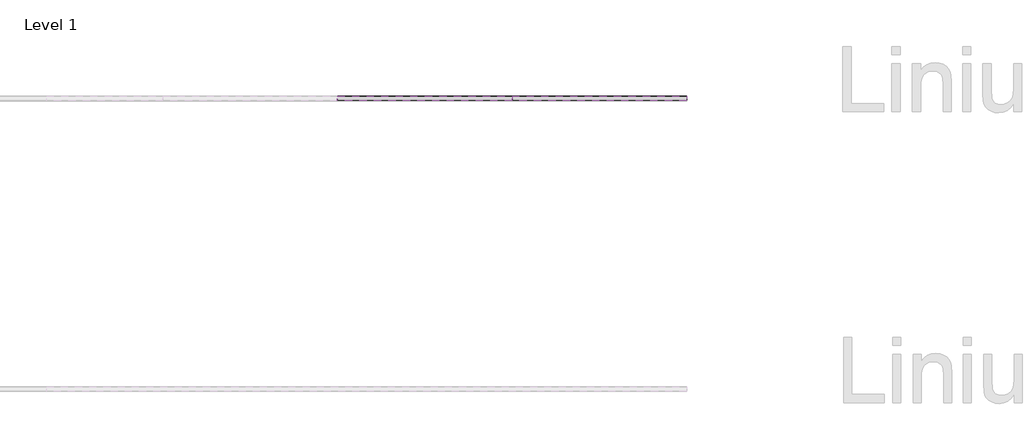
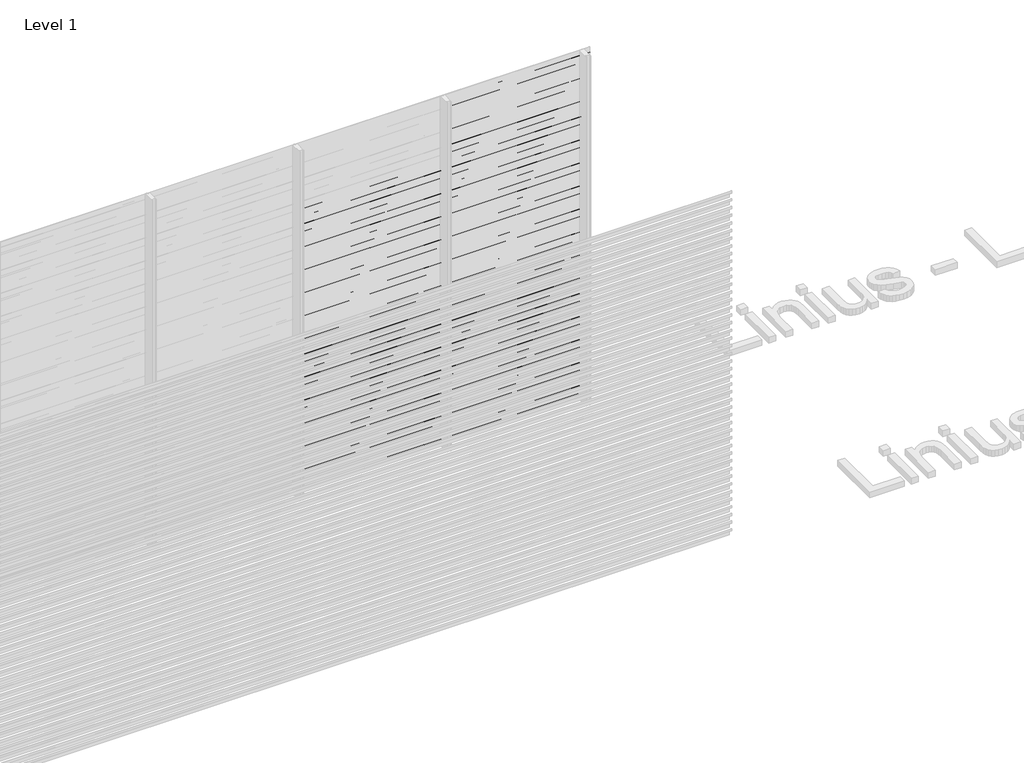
# One storey, part 110 of 540: 82 proxies.
"""IFC4 building model written with IfcOpenShell, lengths in millimetres."""

from ifc_helpers import new_model, si_unit, frame, origin, place, context, project, spatial, polyline, outline, extrude, element, save

model = new_model("IFC4")

# Units and contexts
model_context = context("Model", 3, world=origin())
ifc_project = project(units=[si_unit("LENGTHUNIT", "METRE", prefix="MILLI")], contexts=[model_context])

# Site, building, storey
site = spatial("IfcSite", under=ifc_project)
building = spatial("IfcBuilding", under=site)
storey = spatial("IfcBuildingStorey", under=building, Name="Level 1", Elevation=0.0)

# Proxies
placement = place(None, origin())
element("IfcBuildingElementProxy", 1, Name="Wall Sweeps", at=placement, inside=storey, context=model_context, shape_type="SweptSolid", body=[
    extrude(outline(polyline([(51514.0540136, 2402.0), (51514.0540136, 2369.0), (51512.8040136, 2369.7216933), (51512.8040136, 2401.2872415), (51483.0540136, 2422.0588647), (51483.0540136, 2442.0), (51484.3040136, 2442.0), (51484.3040136, 2422.7716232), (51514.0540136, 2402.0)])), frame((48566.6208097, 0.0, 0.0), z_axis=(1.0, 0.0, 0.0), x_axis=(0.0, 1.0, 0.0)), (0.0, 0.0, 1.0), 1200.0),
])
element("IfcBuildingElementProxy", 2, Name="Wall Sweeps", at=placement, inside=storey, context=model_context, shape_type="SweptSolid", body=[
    extrude(outline(polyline([(51514.0540136, 2336.0), (51514.0540136, 2303.0), (51512.8040136, 2303.7216933), (51512.8040136, 2335.2872415), (51483.0540136, 2356.0588647), (51483.0540136, 2376.0), (51484.3040136, 2376.0), (51484.3040136, 2356.7716232), (51514.0540136, 2336.0)])), frame((48566.6208097, 0.0, 0.0), z_axis=(1.0, 0.0, 0.0), x_axis=(0.0, 1.0, 0.0)), (0.0, 0.0, 1.0), 1200.0),
])
element("IfcBuildingElementProxy", 3, Name="Wall Sweeps", at=placement, inside=storey, context=model_context, shape_type="SweptSolid", body=[
    extrude(outline(polyline([(51514.0540136, 2270.0), (51514.0540136, 2237.0), (51512.8040136, 2237.7216933), (51512.8040136, 2269.2872415), (51483.0540136, 2290.0588647), (51483.0540136, 2310.0), (51484.3040136, 2310.0), (51484.3040136, 2290.7716232), (51514.0540136, 2270.0)])), frame((48566.6208097, 0.0, 0.0), z_axis=(1.0, 0.0, 0.0), x_axis=(0.0, 1.0, 0.0)), (0.0, 0.0, 1.0), 1200.0),
])
element("IfcBuildingElementProxy", 4, Name="Wall Sweeps", at=placement, inside=storey, context=model_context, shape_type="SweptSolid", body=[
    extrude(outline(polyline([(51514.0540136, 2204.0), (51514.0540136, 2171.0), (51512.8040136, 2171.7216933), (51512.8040136, 2203.2872415), (51483.0540136, 2224.0588647), (51483.0540136, 2244.0), (51484.3040136, 2244.0), (51484.3040136, 2224.7716232), (51514.0540136, 2204.0)])), frame((48566.6208097, 0.0, 0.0), z_axis=(1.0, 0.0, 0.0), x_axis=(0.0, 1.0, 0.0)), (0.0, 0.0, 1.0), 1200.0),
])
element("IfcBuildingElementProxy", 5, Name="Wall Sweeps", at=placement, inside=storey, context=model_context, shape_type="SweptSolid", body=[
    extrude(outline(polyline([(51514.0540136, 2138.0), (51514.0540136, 2105.0), (51512.8040136, 2105.7216933), (51512.8040136, 2137.2872415), (51483.0540136, 2158.0588647), (51483.0540136, 2178.0), (51484.3040136, 2178.0), (51484.3040136, 2158.7716232), (51514.0540136, 2138.0)])), frame((48566.6208097, 0.0, 0.0), z_axis=(1.0, 0.0, 0.0), x_axis=(0.0, 1.0, 0.0)), (0.0, 0.0, 1.0), 1200.0),
])
element("IfcBuildingElementProxy", 6, Name="Wall Sweeps", at=placement, inside=storey, context=model_context, shape_type="SweptSolid", body=[
    extrude(outline(polyline([(51514.0540136, 2072.0), (51514.0540136, 2039.0), (51512.8040136, 2039.7216933), (51512.8040136, 2071.2872415), (51483.0540136, 2092.0588647), (51483.0540136, 2112.0), (51484.3040136, 2112.0), (51484.3040136, 2092.7716232), (51514.0540136, 2072.0)])), frame((48566.6208097, 0.0, 0.0), z_axis=(1.0, 0.0, 0.0), x_axis=(0.0, 1.0, 0.0)), (0.0, 0.0, 1.0), 1200.0),
])
element("IfcBuildingElementProxy", 7, Name="Wall Sweeps", at=placement, inside=storey, context=model_context, shape_type="SweptSolid", body=[
    extrude(outline(polyline([(51514.0540136, 2006.0), (51514.0540136, 1973.0), (51512.8040136, 1973.7216933), (51512.8040136, 2005.2872415), (51483.0540136, 2026.0588647), (51483.0540136, 2046.0), (51484.3040136, 2046.0), (51484.3040136, 2026.7716232), (51514.0540136, 2006.0)])), frame((48566.6208097, 0.0, 0.0), z_axis=(1.0, 0.0, 0.0), x_axis=(0.0, 1.0, 0.0)), (0.0, 0.0, 1.0), 1200.0),
])
element("IfcBuildingElementProxy", 8, Name="Wall Sweeps", at=placement, inside=storey, context=model_context, shape_type="SweptSolid", body=[
    extrude(outline(polyline([(51514.0540136, 1940.0), (51514.0540136, 1907.0), (51512.8040136, 1907.7216933), (51512.8040136, 1939.2872415), (51483.0540136, 1960.0588647), (51483.0540136, 1980.0), (51484.3040136, 1980.0), (51484.3040136, 1960.7716232), (51514.0540136, 1940.0)])), frame((48566.6208097, 0.0, 0.0), z_axis=(1.0, 0.0, 0.0), x_axis=(0.0, 1.0, 0.0)), (0.0, 0.0, 1.0), 1200.0),
])
element("IfcBuildingElementProxy", 9, Name="Wall Sweeps", at=placement, inside=storey, context=model_context, shape_type="SweptSolid", body=[
    extrude(outline(polyline([(51514.0540136, 1874.0), (51514.0540136, 1841.0), (51512.8040136, 1841.7216933), (51512.8040136, 1873.2872415), (51483.0540136, 1894.0588647), (51483.0540136, 1914.0), (51484.3040136, 1914.0), (51484.3040136, 1894.7716232), (51514.0540136, 1874.0)])), frame((48566.6208097, 0.0, 0.0), z_axis=(1.0, 0.0, 0.0), x_axis=(0.0, 1.0, 0.0)), (0.0, 0.0, 1.0), 1200.0),
])
element("IfcBuildingElementProxy", 10, Name="Wall Sweeps", at=placement, inside=storey, context=model_context, shape_type="SweptSolid", body=[
    extrude(outline(polyline([(51514.0540136, 1808.0), (51514.0540136, 1775.0), (51512.8040136, 1775.7216933), (51512.8040136, 1807.2872415), (51483.0540136, 1828.0588647), (51483.0540136, 1848.0), (51484.3040136, 1848.0), (51484.3040136, 1828.7716232), (51514.0540136, 1808.0)])), frame((48566.6208097, 0.0, 0.0), z_axis=(1.0, 0.0, 0.0), x_axis=(0.0, 1.0, 0.0)), (0.0, 0.0, 1.0), 1200.0),
])
element("IfcBuildingElementProxy", 11, Name="Wall Sweeps", at=placement, inside=storey, context=model_context, shape_type="SweptSolid", body=[
    extrude(outline(polyline([(51514.0540136, 1742.0), (51514.0540136, 1709.0), (51512.8040136, 1709.7216933), (51512.8040136, 1741.2872415), (51483.0540136, 1762.0588647), (51483.0540136, 1782.0), (51484.3040136, 1782.0), (51484.3040136, 1762.7716232), (51514.0540136, 1742.0)])), frame((48566.6208097, 0.0, 0.0), z_axis=(1.0, 0.0, 0.0), x_axis=(0.0, 1.0, 0.0)), (0.0, 0.0, 1.0), 1200.0),
])
element("IfcBuildingElementProxy", 12, Name="Wall Sweeps", at=placement, inside=storey, context=model_context, shape_type="SweptSolid", body=[
    extrude(outline(polyline([(51514.0540136, 1676.0), (51514.0540136, 1643.0), (51512.8040136, 1643.7216933), (51512.8040136, 1675.2872415), (51483.0540136, 1696.0588647), (51483.0540136, 1716.0), (51484.3040136, 1716.0), (51484.3040136, 1696.7716232), (51514.0540136, 1676.0)])), frame((48566.6208097, 0.0, 0.0), z_axis=(1.0, 0.0, 0.0), x_axis=(0.0, 1.0, 0.0)), (0.0, 0.0, 1.0), 1200.0),
])
element("IfcBuildingElementProxy", 13, Name="Wall Sweeps", at=placement, inside=storey, context=model_context, shape_type="SweptSolid", body=[
    extrude(outline(polyline([(51514.0540136, 1610.0), (51514.0540136, 1577.0), (51512.8040136, 1577.7216933), (51512.8040136, 1609.2872415), (51483.0540136, 1630.0588647), (51483.0540136, 1650.0), (51484.3040136, 1650.0), (51484.3040136, 1630.7716232), (51514.0540136, 1610.0)])), frame((48566.6208097, 0.0, 0.0), z_axis=(1.0, 0.0, 0.0), x_axis=(0.0, 1.0, 0.0)), (0.0, 0.0, 1.0), 1200.0),
])
element("IfcBuildingElementProxy", 14, Name="Wall Sweeps", at=placement, inside=storey, context=model_context, shape_type="SweptSolid", body=[
    extrude(outline(polyline([(51514.0540136, 1544.0), (51514.0540136, 1511.0), (51512.8040136, 1511.7216933), (51512.8040136, 1543.2872415), (51483.0540136, 1564.0588647), (51483.0540136, 1584.0), (51484.3040136, 1584.0), (51484.3040136, 1564.7716232), (51514.0540136, 1544.0)])), frame((48566.6208097, 0.0, 0.0), z_axis=(1.0, 0.0, 0.0), x_axis=(0.0, 1.0, 0.0)), (0.0, 0.0, 1.0), 1200.0),
])
element("IfcBuildingElementProxy", 15, Name="Wall Sweeps", at=placement, inside=storey, context=model_context, shape_type="SweptSolid", body=[
    extrude(outline(polyline([(51514.0540136, 1478.0), (51514.0540136, 1445.0), (51512.8040136, 1445.7216933), (51512.8040136, 1477.2872415), (51483.0540136, 1498.0588647), (51483.0540136, 1518.0), (51484.3040136, 1518.0), (51484.3040136, 1498.7716232), (51514.0540136, 1478.0)])), frame((48566.6208097, 0.0, 0.0), z_axis=(1.0, 0.0, 0.0), x_axis=(0.0, 1.0, 0.0)), (0.0, 0.0, 1.0), 1200.0),
])
element("IfcBuildingElementProxy", 16, Name="Wall Sweeps", at=placement, inside=storey, context=model_context, shape_type="SweptSolid", body=[
    extrude(outline(polyline([(51514.0540136, 1412.0), (51514.0540136, 1379.0), (51512.8040136, 1379.7216933), (51512.8040136, 1411.2872415), (51483.0540136, 1432.0588647), (51483.0540136, 1452.0), (51484.3040136, 1452.0), (51484.3040136, 1432.7716232), (51514.0540136, 1412.0)])), frame((48566.6208097, 0.0, 0.0), z_axis=(1.0, 0.0, 0.0), x_axis=(0.0, 1.0, 0.0)), (0.0, 0.0, 1.0), 1200.0),
])
element("IfcBuildingElementProxy", 17, Name="Wall Sweeps", at=placement, inside=storey, context=model_context, shape_type="SweptSolid", body=[
    extrude(outline(polyline([(51514.0540136, 1346.0), (51514.0540136, 1313.0), (51512.8040136, 1313.7216933), (51512.8040136, 1345.2872415), (51483.0540136, 1366.0588647), (51483.0540136, 1386.0), (51484.3040136, 1386.0), (51484.3040136, 1366.7716232), (51514.0540136, 1346.0)])), frame((48566.6208097, 0.0, 0.0), z_axis=(1.0, 0.0, 0.0), x_axis=(0.0, 1.0, 0.0)), (0.0, 0.0, 1.0), 1200.0),
])
element("IfcBuildingElementProxy", 18, Name="Wall Sweeps", at=placement, inside=storey, context=model_context, shape_type="SweptSolid", body=[
    extrude(outline(polyline([(51514.0540136, 1280.0), (51514.0540136, 1247.0), (51512.8040136, 1247.7216933), (51512.8040136, 1279.2872415), (51483.0540136, 1300.0588647), (51483.0540136, 1320.0), (51484.3040136, 1320.0), (51484.3040136, 1300.7716232), (51514.0540136, 1280.0)])), frame((48566.6208097, 0.0, 0.0), z_axis=(1.0, 0.0, 0.0), x_axis=(0.0, 1.0, 0.0)), (0.0, 0.0, 1.0), 1200.0),
])
element("IfcBuildingElementProxy", 19, Name="Wall Sweeps", at=placement, inside=storey, context=model_context, shape_type="SweptSolid", body=[
    extrude(outline(polyline([(51514.0540136, 1214.0), (51514.0540136, 1181.0), (51512.8040136, 1181.7216933), (51512.8040136, 1213.2872415), (51483.0540136, 1234.0588647), (51483.0540136, 1254.0), (51484.3040136, 1254.0), (51484.3040136, 1234.7716232), (51514.0540136, 1214.0)])), frame((48566.6208097, 0.0, 0.0), z_axis=(1.0, 0.0, 0.0), x_axis=(0.0, 1.0, 0.0)), (0.0, 0.0, 1.0), 1200.0),
])
element("IfcBuildingElementProxy", 20, Name="Wall Sweeps", at=placement, inside=storey, context=model_context, shape_type="SweptSolid", body=[
    extrude(outline(polyline([(51514.0540136, 1148.0), (51514.0540136, 1115.0), (51512.8040136, 1115.7216933), (51512.8040136, 1147.2872415), (51483.0540136, 1168.0588647), (51483.0540136, 1188.0), (51484.3040136, 1188.0), (51484.3040136, 1168.7716232), (51514.0540136, 1148.0)])), frame((48566.6208097, 0.0, 0.0), z_axis=(1.0, 0.0, 0.0), x_axis=(0.0, 1.0, 0.0)), (0.0, 0.0, 1.0), 1200.0),
])
element("IfcBuildingElementProxy", 21, Name="Wall Sweeps", at=placement, inside=storey, context=model_context, shape_type="SweptSolid", body=[
    extrude(outline(polyline([(51514.0540136, 1082.0), (51514.0540136, 1049.0), (51512.8040136, 1049.7216933), (51512.8040136, 1081.2872415), (51483.0540136, 1102.0588647), (51483.0540136, 1122.0), (51484.3040136, 1122.0), (51484.3040136, 1102.7716232), (51514.0540136, 1082.0)])), frame((48566.6208097, 0.0, 0.0), z_axis=(1.0, 0.0, 0.0), x_axis=(0.0, 1.0, 0.0)), (0.0, 0.0, 1.0), 1200.0),
])
element("IfcBuildingElementProxy", 22, Name="Wall Sweeps", at=placement, inside=storey, context=model_context, shape_type="SweptSolid", body=[
    extrude(outline(polyline([(51514.0540136, 1016.0), (51514.0540136, 983.0), (51512.8040136, 983.7216933), (51512.8040136, 1015.2872415), (51483.0540136, 1036.0588647), (51483.0540136, 1056.0), (51484.3040136, 1056.0), (51484.3040136, 1036.7716232), (51514.0540136, 1016.0)])), frame((48566.6208097, 0.0, 0.0), z_axis=(1.0, 0.0, 0.0), x_axis=(0.0, 1.0, 0.0)), (0.0, 0.0, 1.0), 1200.0),
])
element("IfcBuildingElementProxy", 23, Name="Wall Sweeps", at=placement, inside=storey, context=model_context, shape_type="SweptSolid", body=[
    extrude(outline(polyline([(51514.0540136, 950.0), (51514.0540136, 917.0), (51512.8040136, 917.7216933), (51512.8040136, 949.2872415), (51483.0540136, 970.0588647), (51483.0540136, 990.0), (51484.3040136, 990.0), (51484.3040136, 970.7716232), (51514.0540136, 950.0)])), frame((48566.6208097, 0.0, 0.0), z_axis=(1.0, 0.0, 0.0), x_axis=(0.0, 1.0, 0.0)), (0.0, 0.0, 1.0), 1200.0),
])
element("IfcBuildingElementProxy", 24, Name="Wall Sweeps", at=placement, inside=storey, context=model_context, shape_type="SweptSolid", body=[
    extrude(outline(polyline([(51514.0540136, 884.0), (51514.0540136, 851.0), (51512.8040136, 851.7216933), (51512.8040136, 883.2872415), (51483.0540136, 904.0588647), (51483.0540136, 924.0), (51484.3040136, 924.0), (51484.3040136, 904.7716232), (51514.0540136, 884.0)])), frame((48566.6208097, 0.0, 0.0), z_axis=(1.0, 0.0, 0.0), x_axis=(0.0, 1.0, 0.0)), (0.0, 0.0, 1.0), 1200.0),
])
element("IfcBuildingElementProxy", 25, Name="Wall Sweeps", at=placement, inside=storey, context=model_context, shape_type="SweptSolid", body=[
    extrude(outline(polyline([(51514.0540136, 818.0), (51514.0540136, 785.0), (51512.8040136, 785.7216933), (51512.8040136, 817.2872415), (51483.0540136, 838.0588647), (51483.0540136, 858.0), (51484.3040136, 858.0), (51484.3040136, 838.7716232), (51514.0540136, 818.0)])), frame((48566.6208097, 0.0, 0.0), z_axis=(1.0, 0.0, 0.0), x_axis=(0.0, 1.0, 0.0)), (0.0, 0.0, 1.0), 1200.0),
])
element("IfcBuildingElementProxy", 26, Name="Wall Sweeps", at=placement, inside=storey, context=model_context, shape_type="SweptSolid", body=[
    extrude(outline(polyline([(51514.0540136, 752.0), (51514.0540136, 719.0), (51512.8040136, 719.7216933), (51512.8040136, 751.2872415), (51483.0540136, 772.0588647), (51483.0540136, 792.0), (51484.3040136, 792.0), (51484.3040136, 772.7716232), (51514.0540136, 752.0)])), frame((48566.6208097, 0.0, 0.0), z_axis=(1.0, 0.0, 0.0), x_axis=(0.0, 1.0, 0.0)), (0.0, 0.0, 1.0), 1200.0),
])
element("IfcBuildingElementProxy", 27, Name="Wall Sweeps", at=placement, inside=storey, context=model_context, shape_type="SweptSolid", body=[
    extrude(outline(polyline([(51514.0540136, 686.0), (51514.0540136, 653.0), (51512.8040136, 653.7216933), (51512.8040136, 685.2872415), (51483.0540136, 706.0588647), (51483.0540136, 726.0), (51484.3040136, 726.0), (51484.3040136, 706.7716232), (51514.0540136, 686.0)])), frame((48566.6208097, 0.0, 0.0), z_axis=(1.0, 0.0, 0.0), x_axis=(0.0, 1.0, 0.0)), (0.0, 0.0, 1.0), 1200.0),
])
element("IfcBuildingElementProxy", 28, Name="Wall Sweeps", at=placement, inside=storey, context=model_context, shape_type="SweptSolid", body=[
    extrude(outline(polyline([(51514.0540136, 620.0), (51514.0540136, 587.0), (51512.8040136, 587.7216933), (51512.8040136, 619.2872415), (51483.0540136, 640.0588647), (51483.0540136, 660.0), (51484.3040136, 660.0), (51484.3040136, 640.7716232), (51514.0540136, 620.0)])), frame((48566.6208097, 0.0, 0.0), z_axis=(1.0, 0.0, 0.0), x_axis=(0.0, 1.0, 0.0)), (0.0, 0.0, 1.0), 1200.0),
])
element("IfcBuildingElementProxy", 29, Name="Wall Sweeps", at=placement, inside=storey, context=model_context, shape_type="SweptSolid", body=[
    extrude(outline(polyline([(51514.0540136, 554.0), (51514.0540136, 521.0), (51512.8040136, 521.7216933), (51512.8040136, 553.2872415), (51483.0540136, 574.0588647), (51483.0540136, 594.0), (51484.3040136, 594.0), (51484.3040136, 574.7716232), (51514.0540136, 554.0)])), frame((48566.6208097, 0.0, 0.0), z_axis=(1.0, 0.0, 0.0), x_axis=(0.0, 1.0, 0.0)), (0.0, 0.0, 1.0), 1200.0),
])
element("IfcBuildingElementProxy", 30, Name="Wall Sweeps", at=placement, inside=storey, context=model_context, shape_type="SweptSolid", body=[
    extrude(outline(polyline([(51514.0540136, 488.0), (51514.0540136, 455.0), (51512.8040136, 455.7216933), (51512.8040136, 487.2872415), (51483.0540136, 508.0588647), (51483.0540136, 528.0), (51484.3040136, 528.0), (51484.3040136, 508.7716232), (51514.0540136, 488.0)])), frame((48566.6208097, 0.0, 0.0), z_axis=(1.0, 0.0, 0.0), x_axis=(0.0, 1.0, 0.0)), (0.0, 0.0, 1.0), 1200.0),
])
element("IfcBuildingElementProxy", 31, Name="Wall Sweeps", at=placement, inside=storey, context=model_context, shape_type="SweptSolid", body=[
    extrude(outline(polyline([(51514.0540136, 422.0), (51514.0540136, 389.0), (51512.8040136, 389.7216933), (51512.8040136, 421.2872415), (51483.0540136, 442.0588647), (51483.0540136, 462.0), (51484.3040136, 462.0), (51484.3040136, 442.7716232), (51514.0540136, 422.0)])), frame((48566.6208097, 0.0, 0.0), z_axis=(1.0, 0.0, 0.0), x_axis=(0.0, 1.0, 0.0)), (0.0, 0.0, 1.0), 1200.0),
])
element("IfcBuildingElementProxy", 32, Name="Wall Sweeps", at=placement, inside=storey, context=model_context, shape_type="SweptSolid", body=[
    extrude(outline(polyline([(51514.0540136, 356.0), (51514.0540136, 323.0), (51512.8040136, 323.7216933), (51512.8040136, 355.2872415), (51483.0540136, 376.0588647), (51483.0540136, 396.0), (51484.3040136, 396.0), (51484.3040136, 376.7716232), (51514.0540136, 356.0)])), frame((48566.6208097, 0.0, 0.0), z_axis=(1.0, 0.0, 0.0), x_axis=(0.0, 1.0, 0.0)), (0.0, 0.0, 1.0), 1200.0),
])
element("IfcBuildingElementProxy", 33, Name="Wall Sweeps", at=placement, inside=storey, context=model_context, shape_type="SweptSolid", body=[
    extrude(outline(polyline([(51514.0540136, 290.0), (51514.0540136, 257.0), (51512.8040136, 257.7216933), (51512.8040136, 289.2872415), (51483.0540136, 310.0588647), (51483.0540136, 330.0), (51484.3040136, 330.0), (51484.3040136, 310.7716232), (51514.0540136, 290.0)])), frame((48566.6208097, 0.0, 0.0), z_axis=(1.0, 0.0, 0.0), x_axis=(0.0, 1.0, 0.0)), (0.0, 0.0, 1.0), 1200.0),
])
element("IfcBuildingElementProxy", 34, Name="Wall Sweeps", at=placement, inside=storey, context=model_context, shape_type="SweptSolid", body=[
    extrude(outline(polyline([(51514.0540136, 224.0), (51514.0540136, 191.0), (51512.8040136, 191.7216933), (51512.8040136, 223.2872415), (51483.0540136, 244.0588647), (51483.0540136, 264.0), (51484.3040136, 264.0), (51484.3040136, 244.7716232), (51514.0540136, 224.0)])), frame((48566.6208097, 0.0, 0.0), z_axis=(1.0, 0.0, 0.0), x_axis=(0.0, 1.0, 0.0)), (0.0, 0.0, 1.0), 1200.0),
])
element("IfcBuildingElementProxy", 35, Name="Wall Sweeps", at=placement, inside=storey, context=model_context, shape_type="SweptSolid", body=[
    extrude(outline(polyline([(51514.0540136, 158.0), (51514.0540136, 125.0), (51512.8040136, 125.7216933), (51512.8040136, 157.2872415), (51483.0540136, 178.0588647), (51483.0540136, 198.0), (51484.3040136, 198.0), (51484.3040136, 178.7716232), (51514.0540136, 158.0)])), frame((48566.6208097, 0.0, 0.0), z_axis=(1.0, 0.0, 0.0), x_axis=(0.0, 1.0, 0.0)), (0.0, 0.0, 1.0), 1200.0),
])
element("IfcBuildingElementProxy", 36, Name="Wall Sweeps", at=placement, inside=storey, context=model_context, shape_type="SweptSolid", body=[
    extrude(outline(polyline([(51514.0540136, 92.0), (51514.0540136, 59.0), (51512.8040136, 59.7216933), (51512.8040136, 91.2872415), (51483.0540136, 112.0588647), (51483.0540136, 132.0), (51484.3040136, 132.0), (51484.3040136, 112.7716232), (51514.0540136, 92.0)])), frame((48566.6208097, 0.0, 0.0), z_axis=(1.0, 0.0, 0.0), x_axis=(0.0, 1.0, 0.0)), (0.0, 0.0, 1.0), 1200.0),
])
element("IfcBuildingElementProxy", 37, Name="Wall Sweeps", at=placement, inside=storey, context=model_context, shape_type="SweptSolid", body=[
    extrude(outline(polyline([(51514.0540136, 26.0), (51514.0540136, -7.0), (51512.8040136, -6.2783067), (51512.8040136, 25.2872415), (51483.0540136, 46.0588647), (51483.0540136, 66.0), (51484.3040136, 66.0), (51484.3040136, 46.7716232), (51514.0540136, 26.0)])), frame((48566.6208097, 0.0, 0.0), z_axis=(1.0, 0.0, 0.0), x_axis=(0.0, 1.0, 0.0)), (0.0, 0.0, 1.0), 1200.0),
])
element("IfcBuildingElementProxy", 38, Name="Wall Sweeps", at=placement, inside=storey, context=model_context, shape_type="SweptSolid", body=[
    extrude(outline(polyline([(51514.0540136, 2930.0), (51514.0540136, 2897.0), (51512.8040136, 2897.7216933), (51512.8040136, 2929.2872415), (51483.0540136, 2950.0588647), (51483.0540136, 2970.0), (51484.3040136, 2970.0), (51484.3040136, 2950.7716232), (51514.0540136, 2930.0)])), frame((49766.6208097, 0.0, 0.0), z_axis=(1.0, 0.0, 0.0), x_axis=(0.0, 1.0, 0.0)), (0.0, 0.0, 1.0), 1200.0),
])
element("IfcBuildingElementProxy", 39, Name="Wall Sweeps", at=placement, inside=storey, context=model_context, shape_type="SweptSolid", body=[
    extrude(outline(polyline([(51514.0540136, 2864.0), (51514.0540136, 2831.0), (51512.8040136, 2831.7216933), (51512.8040136, 2863.2872415), (51483.0540136, 2884.0588647), (51483.0540136, 2904.0), (51484.3040136, 2904.0), (51484.3040136, 2884.7716232), (51514.0540136, 2864.0)])), frame((49766.6208097, 0.0, 0.0), z_axis=(1.0, 0.0, 0.0), x_axis=(0.0, 1.0, 0.0)), (0.0, 0.0, 1.0), 1200.0),
])
element("IfcBuildingElementProxy", 40, Name="Wall Sweeps", at=placement, inside=storey, context=model_context, shape_type="SweptSolid", body=[
    extrude(outline(polyline([(51514.0540136, 2798.0), (51514.0540136, 2765.0), (51512.8040136, 2765.7216933), (51512.8040136, 2797.2872415), (51483.0540136, 2818.0588647), (51483.0540136, 2838.0), (51484.3040136, 2838.0), (51484.3040136, 2818.7716232), (51514.0540136, 2798.0)])), frame((49766.6208097, 0.0, 0.0), z_axis=(1.0, 0.0, 0.0), x_axis=(0.0, 1.0, 0.0)), (0.0, 0.0, 1.0), 1200.0),
])
element("IfcBuildingElementProxy", 41, Name="Wall Sweeps", at=placement, inside=storey, context=model_context, shape_type="SweptSolid", body=[
    extrude(outline(polyline([(51514.0540136, 2732.0), (51514.0540136, 2699.0), (51512.8040136, 2699.7216933), (51512.8040136, 2731.2872415), (51483.0540136, 2752.0588647), (51483.0540136, 2772.0), (51484.3040136, 2772.0), (51484.3040136, 2752.7716232), (51514.0540136, 2732.0)])), frame((49766.6208097, 0.0, 0.0), z_axis=(1.0, 0.0, 0.0), x_axis=(0.0, 1.0, 0.0)), (0.0, 0.0, 1.0), 1200.0),
])
element("IfcBuildingElementProxy", 42, Name="Wall Sweeps", at=placement, inside=storey, context=model_context, shape_type="SweptSolid", body=[
    extrude(outline(polyline([(51514.0540136, 2666.0), (51514.0540136, 2633.0), (51512.8040136, 2633.7216933), (51512.8040136, 2665.2872415), (51483.0540136, 2686.0588647), (51483.0540136, 2706.0), (51484.3040136, 2706.0), (51484.3040136, 2686.7716232), (51514.0540136, 2666.0)])), frame((49766.6208097, 0.0, 0.0), z_axis=(1.0, 0.0, 0.0), x_axis=(0.0, 1.0, 0.0)), (0.0, 0.0, 1.0), 1200.0),
])
element("IfcBuildingElementProxy", 43, Name="Wall Sweeps", at=placement, inside=storey, context=model_context, shape_type="SweptSolid", body=[
    extrude(outline(polyline([(51514.0540136, 2600.0), (51514.0540136, 2567.0), (51512.8040136, 2567.7216933), (51512.8040136, 2599.2872415), (51483.0540136, 2620.0588647), (51483.0540136, 2640.0), (51484.3040136, 2640.0), (51484.3040136, 2620.7716232), (51514.0540136, 2600.0)])), frame((49766.6208097, 0.0, 0.0), z_axis=(1.0, 0.0, 0.0), x_axis=(0.0, 1.0, 0.0)), (0.0, 0.0, 1.0), 1200.0),
])
element("IfcBuildingElementProxy", 44, Name="Wall Sweeps", at=placement, inside=storey, context=model_context, shape_type="SweptSolid", body=[
    extrude(outline(polyline([(51514.0540136, 2534.0), (51514.0540136, 2501.0), (51512.8040136, 2501.7216933), (51512.8040136, 2533.2872415), (51483.0540136, 2554.0588647), (51483.0540136, 2574.0), (51484.3040136, 2574.0), (51484.3040136, 2554.7716232), (51514.0540136, 2534.0)])), frame((49766.6208097, 0.0, 0.0), z_axis=(1.0, 0.0, 0.0), x_axis=(0.0, 1.0, 0.0)), (0.0, 0.0, 1.0), 1200.0),
])
element("IfcBuildingElementProxy", 45, Name="Wall Sweeps", at=placement, inside=storey, context=model_context, shape_type="SweptSolid", body=[
    extrude(outline(polyline([(51514.0540136, 2468.0), (51514.0540136, 2435.0), (51512.8040136, 2435.7216933), (51512.8040136, 2467.2872415), (51483.0540136, 2488.0588647), (51483.0540136, 2508.0), (51484.3040136, 2508.0), (51484.3040136, 2488.7716232), (51514.0540136, 2468.0)])), frame((49766.6208097, 0.0, 0.0), z_axis=(1.0, 0.0, 0.0), x_axis=(0.0, 1.0, 0.0)), (0.0, 0.0, 1.0), 1200.0),
])
element("IfcBuildingElementProxy", 46, Name="Wall Sweeps", at=placement, inside=storey, context=model_context, shape_type="SweptSolid", body=[
    extrude(outline(polyline([(51514.0540136, 2402.0), (51514.0540136, 2369.0), (51512.8040136, 2369.7216933), (51512.8040136, 2401.2872415), (51483.0540136, 2422.0588647), (51483.0540136, 2442.0), (51484.3040136, 2442.0), (51484.3040136, 2422.7716232), (51514.0540136, 2402.0)])), frame((49766.6208097, 0.0, 0.0), z_axis=(1.0, 0.0, 0.0), x_axis=(0.0, 1.0, 0.0)), (0.0, 0.0, 1.0), 1200.0),
])
element("IfcBuildingElementProxy", 47, Name="Wall Sweeps", at=placement, inside=storey, context=model_context, shape_type="SweptSolid", body=[
    extrude(outline(polyline([(51514.0540136, 2336.0), (51514.0540136, 2303.0), (51512.8040136, 2303.7216933), (51512.8040136, 2335.2872415), (51483.0540136, 2356.0588647), (51483.0540136, 2376.0), (51484.3040136, 2376.0), (51484.3040136, 2356.7716232), (51514.0540136, 2336.0)])), frame((49766.6208097, 0.0, 0.0), z_axis=(1.0, 0.0, 0.0), x_axis=(0.0, 1.0, 0.0)), (0.0, 0.0, 1.0), 1200.0),
])
element("IfcBuildingElementProxy", 48, Name="Wall Sweeps", at=placement, inside=storey, context=model_context, shape_type="SweptSolid", body=[
    extrude(outline(polyline([(51514.0540136, 2270.0), (51514.0540136, 2237.0), (51512.8040136, 2237.7216933), (51512.8040136, 2269.2872415), (51483.0540136, 2290.0588647), (51483.0540136, 2310.0), (51484.3040136, 2310.0), (51484.3040136, 2290.7716232), (51514.0540136, 2270.0)])), frame((49766.6208097, 0.0, 0.0), z_axis=(1.0, 0.0, 0.0), x_axis=(0.0, 1.0, 0.0)), (0.0, 0.0, 1.0), 1200.0),
])
element("IfcBuildingElementProxy", 49, Name="Wall Sweeps", at=placement, inside=storey, context=model_context, shape_type="SweptSolid", body=[
    extrude(outline(polyline([(51514.0540136, 2204.0), (51514.0540136, 2171.0), (51512.8040136, 2171.7216933), (51512.8040136, 2203.2872415), (51483.0540136, 2224.0588647), (51483.0540136, 2244.0), (51484.3040136, 2244.0), (51484.3040136, 2224.7716232), (51514.0540136, 2204.0)])), frame((49766.6208097, 0.0, 0.0), z_axis=(1.0, 0.0, 0.0), x_axis=(0.0, 1.0, 0.0)), (0.0, 0.0, 1.0), 1200.0),
])
element("IfcBuildingElementProxy", 50, Name="Wall Sweeps", at=placement, inside=storey, context=model_context, shape_type="SweptSolid", body=[
    extrude(outline(polyline([(51514.0540136, 2138.0), (51514.0540136, 2105.0), (51512.8040136, 2105.7216933), (51512.8040136, 2137.2872415), (51483.0540136, 2158.0588647), (51483.0540136, 2178.0), (51484.3040136, 2178.0), (51484.3040136, 2158.7716232), (51514.0540136, 2138.0)])), frame((49766.6208097, 0.0, 0.0), z_axis=(1.0, 0.0, 0.0), x_axis=(0.0, 1.0, 0.0)), (0.0, 0.0, 1.0), 1200.0),
])
element("IfcBuildingElementProxy", 51, Name="Wall Sweeps", at=placement, inside=storey, context=model_context, shape_type="SweptSolid", body=[
    extrude(outline(polyline([(51514.0540136, 2072.0), (51514.0540136, 2039.0), (51512.8040136, 2039.7216933), (51512.8040136, 2071.2872415), (51483.0540136, 2092.0588647), (51483.0540136, 2112.0), (51484.3040136, 2112.0), (51484.3040136, 2092.7716232), (51514.0540136, 2072.0)])), frame((49766.6208097, 0.0, 0.0), z_axis=(1.0, 0.0, 0.0), x_axis=(0.0, 1.0, 0.0)), (0.0, 0.0, 1.0), 1200.0),
])
element("IfcBuildingElementProxy", 52, Name="Wall Sweeps", at=placement, inside=storey, context=model_context, shape_type="SweptSolid", body=[
    extrude(outline(polyline([(51514.0540136, 2006.0), (51514.0540136, 1973.0), (51512.8040136, 1973.7216933), (51512.8040136, 2005.2872415), (51483.0540136, 2026.0588647), (51483.0540136, 2046.0), (51484.3040136, 2046.0), (51484.3040136, 2026.7716232), (51514.0540136, 2006.0)])), frame((49766.6208097, 0.0, 0.0), z_axis=(1.0, 0.0, 0.0), x_axis=(0.0, 1.0, 0.0)), (0.0, 0.0, 1.0), 1200.0),
])
element("IfcBuildingElementProxy", 53, Name="Wall Sweeps", at=placement, inside=storey, context=model_context, shape_type="SweptSolid", body=[
    extrude(outline(polyline([(51514.0540136, 1940.0), (51514.0540136, 1907.0), (51512.8040136, 1907.7216933), (51512.8040136, 1939.2872415), (51483.0540136, 1960.0588647), (51483.0540136, 1980.0), (51484.3040136, 1980.0), (51484.3040136, 1960.7716232), (51514.0540136, 1940.0)])), frame((49766.6208097, 0.0, 0.0), z_axis=(1.0, 0.0, 0.0), x_axis=(0.0, 1.0, 0.0)), (0.0, 0.0, 1.0), 1200.0),
])
element("IfcBuildingElementProxy", 54, Name="Wall Sweeps", at=placement, inside=storey, context=model_context, shape_type="SweptSolid", body=[
    extrude(outline(polyline([(51514.0540136, 1874.0), (51514.0540136, 1841.0), (51512.8040136, 1841.7216933), (51512.8040136, 1873.2872415), (51483.0540136, 1894.0588647), (51483.0540136, 1914.0), (51484.3040136, 1914.0), (51484.3040136, 1894.7716232), (51514.0540136, 1874.0)])), frame((49766.6208097, 0.0, 0.0), z_axis=(1.0, 0.0, 0.0), x_axis=(0.0, 1.0, 0.0)), (0.0, 0.0, 1.0), 1200.0),
])
element("IfcBuildingElementProxy", 55, Name="Wall Sweeps", at=placement, inside=storey, context=model_context, shape_type="SweptSolid", body=[
    extrude(outline(polyline([(51514.0540136, 1808.0), (51514.0540136, 1775.0), (51512.8040136, 1775.7216933), (51512.8040136, 1807.2872415), (51483.0540136, 1828.0588647), (51483.0540136, 1848.0), (51484.3040136, 1848.0), (51484.3040136, 1828.7716232), (51514.0540136, 1808.0)])), frame((49766.6208097, 0.0, 0.0), z_axis=(1.0, 0.0, 0.0), x_axis=(0.0, 1.0, 0.0)), (0.0, 0.0, 1.0), 1200.0),
])
element("IfcBuildingElementProxy", 56, Name="Wall Sweeps", at=placement, inside=storey, context=model_context, shape_type="SweptSolid", body=[
    extrude(outline(polyline([(51514.0540136, 1742.0), (51514.0540136, 1709.0), (51512.8040136, 1709.7216933), (51512.8040136, 1741.2872415), (51483.0540136, 1762.0588647), (51483.0540136, 1782.0), (51484.3040136, 1782.0), (51484.3040136, 1762.7716232), (51514.0540136, 1742.0)])), frame((49766.6208097, 0.0, 0.0), z_axis=(1.0, 0.0, 0.0), x_axis=(0.0, 1.0, 0.0)), (0.0, 0.0, 1.0), 1200.0),
])
element("IfcBuildingElementProxy", 57, Name="Wall Sweeps", at=placement, inside=storey, context=model_context, shape_type="SweptSolid", body=[
    extrude(outline(polyline([(51514.0540136, 1676.0), (51514.0540136, 1643.0), (51512.8040136, 1643.7216933), (51512.8040136, 1675.2872415), (51483.0540136, 1696.0588647), (51483.0540136, 1716.0), (51484.3040136, 1716.0), (51484.3040136, 1696.7716232), (51514.0540136, 1676.0)])), frame((49766.6208097, 0.0, 0.0), z_axis=(1.0, 0.0, 0.0), x_axis=(0.0, 1.0, 0.0)), (0.0, 0.0, 1.0), 1200.0),
])
element("IfcBuildingElementProxy", 58, Name="Wall Sweeps", at=placement, inside=storey, context=model_context, shape_type="SweptSolid", body=[
    extrude(outline(polyline([(51514.0540136, 1610.0), (51514.0540136, 1577.0), (51512.8040136, 1577.7216933), (51512.8040136, 1609.2872415), (51483.0540136, 1630.0588647), (51483.0540136, 1650.0), (51484.3040136, 1650.0), (51484.3040136, 1630.7716232), (51514.0540136, 1610.0)])), frame((49766.6208097, 0.0, 0.0), z_axis=(1.0, 0.0, 0.0), x_axis=(0.0, 1.0, 0.0)), (0.0, 0.0, 1.0), 1200.0),
])
element("IfcBuildingElementProxy", 59, Name="Wall Sweeps", at=placement, inside=storey, context=model_context, shape_type="SweptSolid", body=[
    extrude(outline(polyline([(51514.0540136, 1544.0), (51514.0540136, 1511.0), (51512.8040136, 1511.7216933), (51512.8040136, 1543.2872415), (51483.0540136, 1564.0588647), (51483.0540136, 1584.0), (51484.3040136, 1584.0), (51484.3040136, 1564.7716232), (51514.0540136, 1544.0)])), frame((49766.6208097, 0.0, 0.0), z_axis=(1.0, 0.0, 0.0), x_axis=(0.0, 1.0, 0.0)), (0.0, 0.0, 1.0), 1200.0),
])
element("IfcBuildingElementProxy", 60, Name="Wall Sweeps", at=placement, inside=storey, context=model_context, shape_type="SweptSolid", body=[
    extrude(outline(polyline([(51514.0540136, 1478.0), (51514.0540136, 1445.0), (51512.8040136, 1445.7216933), (51512.8040136, 1477.2872415), (51483.0540136, 1498.0588647), (51483.0540136, 1518.0), (51484.3040136, 1518.0), (51484.3040136, 1498.7716232), (51514.0540136, 1478.0)])), frame((49766.6208097, 0.0, 0.0), z_axis=(1.0, 0.0, 0.0), x_axis=(0.0, 1.0, 0.0)), (0.0, 0.0, 1.0), 1200.0),
])
element("IfcBuildingElementProxy", 61, Name="Wall Sweeps", at=placement, inside=storey, context=model_context, shape_type="SweptSolid", body=[
    extrude(outline(polyline([(51514.0540136, 1412.0), (51514.0540136, 1379.0), (51512.8040136, 1379.7216933), (51512.8040136, 1411.2872415), (51483.0540136, 1432.0588647), (51483.0540136, 1452.0), (51484.3040136, 1452.0), (51484.3040136, 1432.7716232), (51514.0540136, 1412.0)])), frame((49766.6208097, 0.0, 0.0), z_axis=(1.0, 0.0, 0.0), x_axis=(0.0, 1.0, 0.0)), (0.0, 0.0, 1.0), 1200.0),
])
element("IfcBuildingElementProxy", 62, Name="Wall Sweeps", at=placement, inside=storey, context=model_context, shape_type="SweptSolid", body=[
    extrude(outline(polyline([(51514.0540136, 1346.0), (51514.0540136, 1313.0), (51512.8040136, 1313.7216933), (51512.8040136, 1345.2872415), (51483.0540136, 1366.0588647), (51483.0540136, 1386.0), (51484.3040136, 1386.0), (51484.3040136, 1366.7716232), (51514.0540136, 1346.0)])), frame((49766.6208097, 0.0, 0.0), z_axis=(1.0, 0.0, 0.0), x_axis=(0.0, 1.0, 0.0)), (0.0, 0.0, 1.0), 1200.0),
])
element("IfcBuildingElementProxy", 63, Name="Wall Sweeps", at=placement, inside=storey, context=model_context, shape_type="SweptSolid", body=[
    extrude(outline(polyline([(51514.0540136, 1280.0), (51514.0540136, 1247.0), (51512.8040136, 1247.7216933), (51512.8040136, 1279.2872415), (51483.0540136, 1300.0588647), (51483.0540136, 1320.0), (51484.3040136, 1320.0), (51484.3040136, 1300.7716232), (51514.0540136, 1280.0)])), frame((49766.6208097, 0.0, 0.0), z_axis=(1.0, 0.0, 0.0), x_axis=(0.0, 1.0, 0.0)), (0.0, 0.0, 1.0), 1200.0),
])
element("IfcBuildingElementProxy", 64, Name="Wall Sweeps", at=placement, inside=storey, context=model_context, shape_type="SweptSolid", body=[
    extrude(outline(polyline([(51514.0540136, 1214.0), (51514.0540136, 1181.0), (51512.8040136, 1181.7216933), (51512.8040136, 1213.2872415), (51483.0540136, 1234.0588647), (51483.0540136, 1254.0), (51484.3040136, 1254.0), (51484.3040136, 1234.7716232), (51514.0540136, 1214.0)])), frame((49766.6208097, 0.0, 0.0), z_axis=(1.0, 0.0, 0.0), x_axis=(0.0, 1.0, 0.0)), (0.0, 0.0, 1.0), 1200.0),
])
element("IfcBuildingElementProxy", 65, Name="Wall Sweeps", at=placement, inside=storey, context=model_context, shape_type="SweptSolid", body=[
    extrude(outline(polyline([(51514.0540136, 1148.0), (51514.0540136, 1115.0), (51512.8040136, 1115.7216933), (51512.8040136, 1147.2872415), (51483.0540136, 1168.0588647), (51483.0540136, 1188.0), (51484.3040136, 1188.0), (51484.3040136, 1168.7716232), (51514.0540136, 1148.0)])), frame((49766.6208097, 0.0, 0.0), z_axis=(1.0, 0.0, 0.0), x_axis=(0.0, 1.0, 0.0)), (0.0, 0.0, 1.0), 1200.0),
])
element("IfcBuildingElementProxy", 66, Name="Wall Sweeps", at=placement, inside=storey, context=model_context, shape_type="SweptSolid", body=[
    extrude(outline(polyline([(51514.0540136, 1082.0), (51514.0540136, 1049.0), (51512.8040136, 1049.7216933), (51512.8040136, 1081.2872415), (51483.0540136, 1102.0588647), (51483.0540136, 1122.0), (51484.3040136, 1122.0), (51484.3040136, 1102.7716232), (51514.0540136, 1082.0)])), frame((49766.6208097, 0.0, 0.0), z_axis=(1.0, 0.0, 0.0), x_axis=(0.0, 1.0, 0.0)), (0.0, 0.0, 1.0), 1200.0),
])
element("IfcBuildingElementProxy", 67, Name="Wall Sweeps", at=placement, inside=storey, context=model_context, shape_type="SweptSolid", body=[
    extrude(outline(polyline([(51514.0540136, 1016.0), (51514.0540136, 983.0), (51512.8040136, 983.7216933), (51512.8040136, 1015.2872415), (51483.0540136, 1036.0588647), (51483.0540136, 1056.0), (51484.3040136, 1056.0), (51484.3040136, 1036.7716232), (51514.0540136, 1016.0)])), frame((49766.6208097, 0.0, 0.0), z_axis=(1.0, 0.0, 0.0), x_axis=(0.0, 1.0, 0.0)), (0.0, 0.0, 1.0), 1200.0),
])
element("IfcBuildingElementProxy", 68, Name="Wall Sweeps", at=placement, inside=storey, context=model_context, shape_type="SweptSolid", body=[
    extrude(outline(polyline([(51514.0540136, 950.0), (51514.0540136, 917.0), (51512.8040136, 917.7216933), (51512.8040136, 949.2872415), (51483.0540136, 970.0588647), (51483.0540136, 990.0), (51484.3040136, 990.0), (51484.3040136, 970.7716232), (51514.0540136, 950.0)])), frame((49766.6208097, 0.0, 0.0), z_axis=(1.0, 0.0, 0.0), x_axis=(0.0, 1.0, 0.0)), (0.0, 0.0, 1.0), 1200.0),
])
element("IfcBuildingElementProxy", 69, Name="Wall Sweeps", at=placement, inside=storey, context=model_context, shape_type="SweptSolid", body=[
    extrude(outline(polyline([(51514.0540136, 884.0), (51514.0540136, 851.0), (51512.8040136, 851.7216933), (51512.8040136, 883.2872415), (51483.0540136, 904.0588647), (51483.0540136, 924.0), (51484.3040136, 924.0), (51484.3040136, 904.7716232), (51514.0540136, 884.0)])), frame((49766.6208097, 0.0, 0.0), z_axis=(1.0, 0.0, 0.0), x_axis=(0.0, 1.0, 0.0)), (0.0, 0.0, 1.0), 1200.0),
])
element("IfcBuildingElementProxy", 70, Name="Wall Sweeps", at=placement, inside=storey, context=model_context, shape_type="SweptSolid", body=[
    extrude(outline(polyline([(51514.0540136, 818.0), (51514.0540136, 785.0), (51512.8040136, 785.7216933), (51512.8040136, 817.2872415), (51483.0540136, 838.0588647), (51483.0540136, 858.0), (51484.3040136, 858.0), (51484.3040136, 838.7716232), (51514.0540136, 818.0)])), frame((49766.6208097, 0.0, 0.0), z_axis=(1.0, 0.0, 0.0), x_axis=(0.0, 1.0, 0.0)), (0.0, 0.0, 1.0), 1200.0),
])
element("IfcBuildingElementProxy", 71, Name="Wall Sweeps", at=placement, inside=storey, context=model_context, shape_type="SweptSolid", body=[
    extrude(outline(polyline([(51514.0540136, 752.0), (51514.0540136, 719.0), (51512.8040136, 719.7216933), (51512.8040136, 751.2872415), (51483.0540136, 772.0588647), (51483.0540136, 792.0), (51484.3040136, 792.0), (51484.3040136, 772.7716232), (51514.0540136, 752.0)])), frame((49766.6208097, 0.0, 0.0), z_axis=(1.0, 0.0, 0.0), x_axis=(0.0, 1.0, 0.0)), (0.0, 0.0, 1.0), 1200.0),
])
element("IfcBuildingElementProxy", 72, Name="Wall Sweeps", at=placement, inside=storey, context=model_context, shape_type="SweptSolid", body=[
    extrude(outline(polyline([(51514.0540136, 686.0), (51514.0540136, 653.0), (51512.8040136, 653.7216933), (51512.8040136, 685.2872415), (51483.0540136, 706.0588647), (51483.0540136, 726.0), (51484.3040136, 726.0), (51484.3040136, 706.7716232), (51514.0540136, 686.0)])), frame((49766.6208097, 0.0, 0.0), z_axis=(1.0, 0.0, 0.0), x_axis=(0.0, 1.0, 0.0)), (0.0, 0.0, 1.0), 1200.0),
])
element("IfcBuildingElementProxy", 73, Name="Wall Sweeps", at=placement, inside=storey, context=model_context, shape_type="SweptSolid", body=[
    extrude(outline(polyline([(51514.0540136, 620.0), (51514.0540136, 587.0), (51512.8040136, 587.7216933), (51512.8040136, 619.2872415), (51483.0540136, 640.0588647), (51483.0540136, 660.0), (51484.3040136, 660.0), (51484.3040136, 640.7716232), (51514.0540136, 620.0)])), frame((49766.6208097, 0.0, 0.0), z_axis=(1.0, 0.0, 0.0), x_axis=(0.0, 1.0, 0.0)), (0.0, 0.0, 1.0), 1200.0),
])
element("IfcBuildingElementProxy", 74, Name="Wall Sweeps", at=placement, inside=storey, context=model_context, shape_type="SweptSolid", body=[
    extrude(outline(polyline([(51514.0540136, 554.0), (51514.0540136, 521.0), (51512.8040136, 521.7216933), (51512.8040136, 553.2872415), (51483.0540136, 574.0588647), (51483.0540136, 594.0), (51484.3040136, 594.0), (51484.3040136, 574.7716232), (51514.0540136, 554.0)])), frame((49766.6208097, 0.0, 0.0), z_axis=(1.0, 0.0, 0.0), x_axis=(0.0, 1.0, 0.0)), (0.0, 0.0, 1.0), 1200.0),
])
element("IfcBuildingElementProxy", 75, Name="Wall Sweeps", at=placement, inside=storey, context=model_context, shape_type="SweptSolid", body=[
    extrude(outline(polyline([(51514.0540136, 488.0), (51514.0540136, 455.0), (51512.8040136, 455.7216933), (51512.8040136, 487.2872415), (51483.0540136, 508.0588647), (51483.0540136, 528.0), (51484.3040136, 528.0), (51484.3040136, 508.7716232), (51514.0540136, 488.0)])), frame((49766.6208097, 0.0, 0.0), z_axis=(1.0, 0.0, 0.0), x_axis=(0.0, 1.0, 0.0)), (0.0, 0.0, 1.0), 1200.0),
])
element("IfcBuildingElementProxy", 76, Name="Wall Sweeps", at=placement, inside=storey, context=model_context, shape_type="SweptSolid", body=[
    extrude(outline(polyline([(51514.0540136, 422.0), (51514.0540136, 389.0), (51512.8040136, 389.7216933), (51512.8040136, 421.2872415), (51483.0540136, 442.0588647), (51483.0540136, 462.0), (51484.3040136, 462.0), (51484.3040136, 442.7716232), (51514.0540136, 422.0)])), frame((49766.6208097, 0.0, 0.0), z_axis=(1.0, 0.0, 0.0), x_axis=(0.0, 1.0, 0.0)), (0.0, 0.0, 1.0), 1200.0),
])
element("IfcBuildingElementProxy", 77, Name="Wall Sweeps", at=placement, inside=storey, context=model_context, shape_type="SweptSolid", body=[
    extrude(outline(polyline([(51514.0540136, 356.0), (51514.0540136, 323.0), (51512.8040136, 323.7216933), (51512.8040136, 355.2872415), (51483.0540136, 376.0588647), (51483.0540136, 396.0), (51484.3040136, 396.0), (51484.3040136, 376.7716232), (51514.0540136, 356.0)])), frame((49766.6208097, 0.0, 0.0), z_axis=(1.0, 0.0, 0.0), x_axis=(0.0, 1.0, 0.0)), (0.0, 0.0, 1.0), 1200.0),
])
element("IfcBuildingElementProxy", 78, Name="Wall Sweeps", at=placement, inside=storey, context=model_context, shape_type="SweptSolid", body=[
    extrude(outline(polyline([(51514.0540136, 290.0), (51514.0540136, 257.0), (51512.8040136, 257.7216933), (51512.8040136, 289.2872415), (51483.0540136, 310.0588647), (51483.0540136, 330.0), (51484.3040136, 330.0), (51484.3040136, 310.7716232), (51514.0540136, 290.0)])), frame((49766.6208097, 0.0, 0.0), z_axis=(1.0, 0.0, 0.0), x_axis=(0.0, 1.0, 0.0)), (0.0, 0.0, 1.0), 1200.0),
])
element("IfcBuildingElementProxy", 79, Name="Wall Sweeps", at=placement, inside=storey, context=model_context, shape_type="SweptSolid", body=[
    extrude(outline(polyline([(51514.0540136, 224.0), (51514.0540136, 191.0), (51512.8040136, 191.7216933), (51512.8040136, 223.2872415), (51483.0540136, 244.0588647), (51483.0540136, 264.0), (51484.3040136, 264.0), (51484.3040136, 244.7716232), (51514.0540136, 224.0)])), frame((49766.6208097, 0.0, 0.0), z_axis=(1.0, 0.0, 0.0), x_axis=(0.0, 1.0, 0.0)), (0.0, 0.0, 1.0), 1200.0),
])
element("IfcBuildingElementProxy", 80, Name="Wall Sweeps", at=placement, inside=storey, context=model_context, shape_type="SweptSolid", body=[
    extrude(outline(polyline([(51514.0540136, 158.0), (51514.0540136, 125.0), (51512.8040136, 125.7216933), (51512.8040136, 157.2872415), (51483.0540136, 178.0588647), (51483.0540136, 198.0), (51484.3040136, 198.0), (51484.3040136, 178.7716232), (51514.0540136, 158.0)])), frame((49766.6208097, 0.0, 0.0), z_axis=(1.0, 0.0, 0.0), x_axis=(0.0, 1.0, 0.0)), (0.0, 0.0, 1.0), 1200.0),
])
element("IfcBuildingElementProxy", 81, Name="Wall Sweeps", at=placement, inside=storey, context=model_context, shape_type="SweptSolid", body=[
    extrude(outline(polyline([(51514.0540136, 92.0), (51514.0540136, 59.0), (51512.8040136, 59.7216933), (51512.8040136, 91.2872415), (51483.0540136, 112.0588647), (51483.0540136, 132.0), (51484.3040136, 132.0), (51484.3040136, 112.7716232), (51514.0540136, 92.0)])), frame((49766.6208097, 0.0, 0.0), z_axis=(1.0, 0.0, 0.0), x_axis=(0.0, 1.0, 0.0)), (0.0, 0.0, 1.0), 1200.0),
])
element("IfcBuildingElementProxy", 82, Name="Wall Sweeps", at=placement, inside=storey, context=model_context, shape_type="SweptSolid", body=[
    extrude(outline(polyline([(51514.0540136, 26.0), (51514.0540136, -7.0), (51512.8040136, -6.2783067), (51512.8040136, 25.2872415), (51483.0540136, 46.0588647), (51483.0540136, 66.0), (51484.3040136, 66.0), (51484.3040136, 46.7716232), (51514.0540136, 26.0)])), frame((49766.6208097, 0.0, 0.0), z_axis=(1.0, 0.0, 0.0), x_axis=(0.0, 1.0, 0.0)), (0.0, 0.0, 1.0), 1200.0),
])

save(model, "model.ifc")
